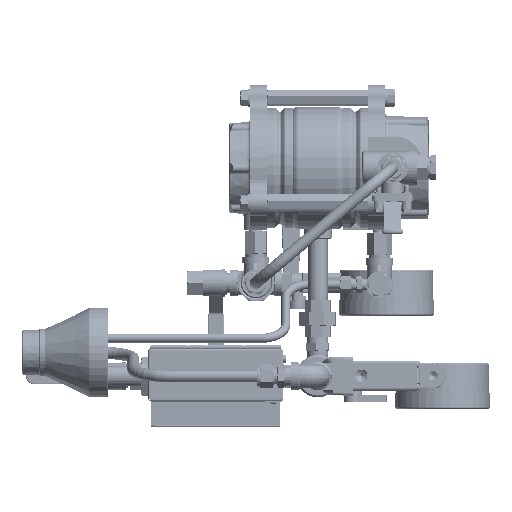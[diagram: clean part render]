
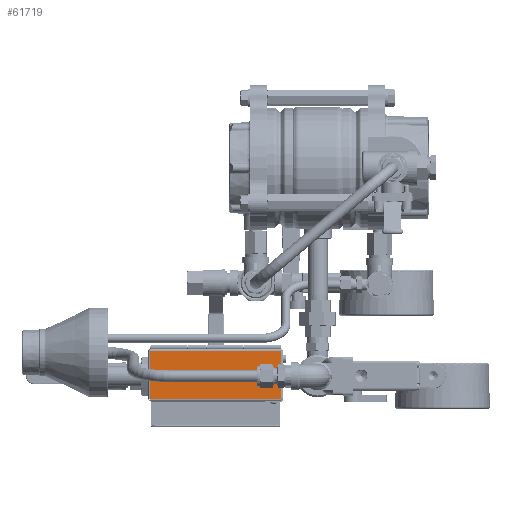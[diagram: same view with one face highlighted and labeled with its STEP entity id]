
A CAD part, front view. The second image highlights one B-rep face of the part: STEP entity #61719.
In plain terms, the highlighted planar face has unit normal (-0.001, -1, 0) as drawn and (-1, 0, 0) by its records, which use the part's own axes.
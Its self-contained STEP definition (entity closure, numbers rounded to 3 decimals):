
#4835=PLANE('',#68743);
#8358=LINE('',#114497,#12750);
#8451=LINE('',#114811,#12843);
#8462=LINE('',#114989,#12854);
#8468=LINE('',#115030,#12860);
#12750=VECTOR('',#78746,10.);
#12843=VECTOR('',#78995,10.);
#12854=VECTOR('',#79018,10.);
#12860=VECTOR('',#79054,10.);
#18233=FACE_OUTER_BOUND('',#22588,.T.);
#22588=EDGE_LOOP('',(#49039,#49040,#49041,#49042));
#30094=VERTEX_POINT('',#114294);
#30102=VERTEX_POINT('',#114479);
#30174=VERTEX_POINT('',#114792);
#30179=VERTEX_POINT('',#114972);
#36923=EDGE_CURVE('',#30102,#30094,#8358,.T.);
#37046=EDGE_CURVE('',#30094,#30174,#8451,.T.);
#37064=EDGE_CURVE('',#30179,#30174,#8462,.T.);
#37075=EDGE_CURVE('',#30102,#30179,#8468,.T.);
#49039=ORIENTED_EDGE('',*,*,#37064,.T.);
#49040=ORIENTED_EDGE('',*,*,#37046,.F.);
#49041=ORIENTED_EDGE('',*,*,#36923,.F.);
#49042=ORIENTED_EDGE('',*,*,#37075,.T.);
#61719=ADVANCED_FACE('',(#18233),#4835,.F.);
#68743=AXIS2_PLACEMENT_3D('',#115031,#79055,#79056);
#78746=DIRECTION('',(0.,0.,-1.));
#78995=DIRECTION('',(0.,1.,0.));
#79018=DIRECTION('',(0.,0.,-1.));
#79054=DIRECTION('',(0.,1.,0.));
#79055=DIRECTION('center_axis',(1.,0.,0.));
#79056=DIRECTION('ref_axis',(0.,0.,-1.));
#114294=CARTESIAN_POINT('',(-53.036,-69.7,1.8));
#114479=CARTESIAN_POINT('',(-53.036,-69.7,53.7));
#114497=CARTESIAN_POINT('',(-53.036,-69.7,14.775));
#114792=CARTESIAN_POINT('',(-53.036,69.7,1.8));
#114811=CARTESIAN_POINT('',(-53.036,71.5,1.8));
#114972=CARTESIAN_POINT('',(-53.036,69.7,53.7));
#114989=CARTESIAN_POINT('',(-53.036,69.7,14.775));
#115030=CARTESIAN_POINT('',(-53.036,53.625,53.7));
#115031=CARTESIAN_POINT('Origin',(-53.036,35.75,27.75));
